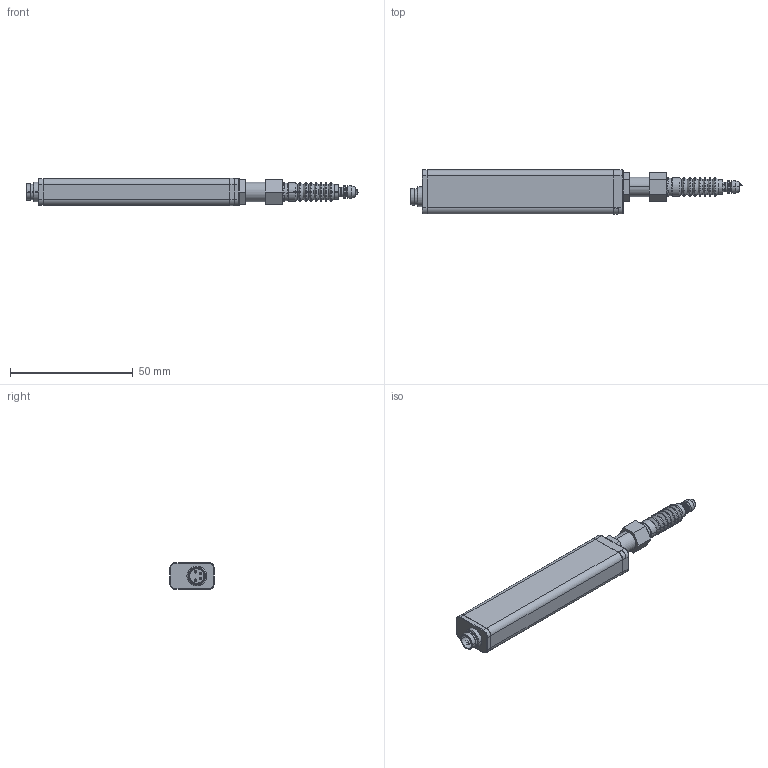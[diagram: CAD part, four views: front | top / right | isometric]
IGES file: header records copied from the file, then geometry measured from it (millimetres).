
Start section: SolidWorks IGES file using analytic representation for surfaces
Global section: file name: S:\秘　SolidWorks\外観データ\Iges\SA-Sx10_iges_01.IGS; native system: SolidWorks 2016; preprocessor: SolidWorks 2016; author: mizukoshi; date: 200127.090313; units: millimetre
Bounding box: 135.39 x 18.09 x 11.18 mm (x, y, z)
Surface area: 7821.9 mm2 (no closed solid volume)
Topology: 0 solids, 0 shells, 289 faces, 3012 edges, 3001 vertices
Faces by surface type: revolution 152, bspline 137
